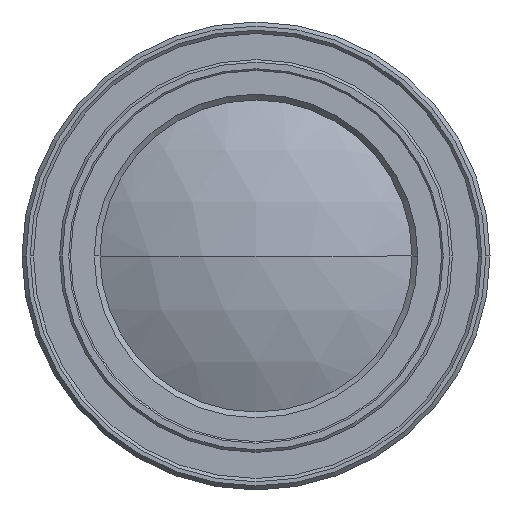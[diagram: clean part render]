
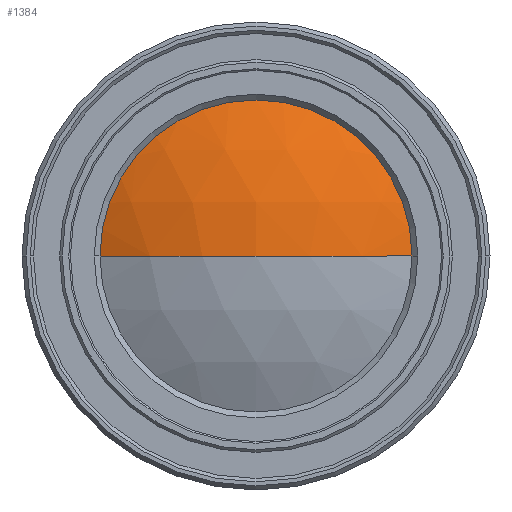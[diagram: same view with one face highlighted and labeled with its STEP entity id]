
A CAD part, left-side view. The second image highlights one B-rep face of the part: STEP entity #1384.
In plain terms, the highlighted spherical face has radius 41.27 mm.
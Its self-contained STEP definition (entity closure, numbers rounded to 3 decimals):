
#184 = VERTEX_POINT ( 'NONE', #1222 ) ;
#209 = EDGE_LOOP ( 'NONE', ( #1429, #1459, #1456 ) ) ;
#404 = CARTESIAN_POINT ( 'NONE',  ( -70.338, 0., 0. ) ) ;
#405 = DIRECTION ( 'NONE',  ( 1., 0., 0. ) ) ;
#406 = DIRECTION ( 'NONE',  ( 0., 1., 0. ) ) ;
#713 = DIRECTION ( 'NONE',  ( 0., 0., 1. ) ) ;
#714 = CARTESIAN_POINT ( 'NONE',  ( -33.702, 0., 0. ) ) ;
#717 = DIRECTION ( 'NONE',  ( 0., 1., 0. ) ) ;
#843 = AXIS2_PLACEMENT_3D ( 'NONE', #1158, #1157, #1156 ) ;
#848 = AXIS2_PLACEMENT_3D ( 'NONE', #2804, #2803, #2802 ) ;
#877 = AXIS2_PLACEMENT_3D ( 'NONE', #714, #713, #717 ) ;
#921 = AXIS2_PLACEMENT_3D ( 'NONE', #404, #405, #406 ) ;
#1096 = VERTEX_POINT ( 'NONE', #2788 ) ;
#1141 = VERTEX_POINT ( 'NONE', #1159 ) ;
#1156 = DIRECTION ( 'NONE',  ( 0., -1., 0. ) ) ;
#1157 = DIRECTION ( 'NONE',  ( 0., 0., 1. ) ) ;
#1158 = CARTESIAN_POINT ( 'NONE',  ( -33.702, 0., 0. ) ) ;
#1159 = CARTESIAN_POINT ( 'NONE',  ( -70.338, 19., 0. ) ) ;
#1195 = EDGE_CURVE ( 'NONE', #184, #1096, #1706, .T. ) ;
#1197 = EDGE_CURVE ( 'NONE', #184, #1141, #1702, .T. ) ;
#1222 = CARTESIAN_POINT ( 'NONE',  ( -74.972, 0., 0. ) ) ;
#1384 = ADVANCED_FACE ( 'NONE', ( #1773 ), #1771, .T. ) ;
#1429 = ORIENTED_EDGE ( 'NONE', *, *, #1197, .F. ) ;
#1456 = ORIENTED_EDGE ( 'NONE', *, *, #2201, .F. ) ;
#1459 = ORIENTED_EDGE ( 'NONE', *, *, #1195, .T. ) ;
#1702 = CIRCLE ( 'NONE', #848, 41.27 ) ;
#1706 = CIRCLE ( 'NONE', #843, 41.27 ) ;
#1771 = SPHERICAL_SURFACE ( 'NONE', #877, 41.27 ) ;
#1773 = FACE_OUTER_BOUND ( 'NONE', #209, .T. ) ;
#1883 = CIRCLE ( 'NONE', #921, 19. ) ;
#2201 = EDGE_CURVE ( 'NONE', #1141, #1096, #1883, .T. ) ;
#2788 = CARTESIAN_POINT ( 'NONE',  ( -70.338, -19., 0. ) ) ;
#2802 = DIRECTION ( 'NONE',  ( -1., 0., 0. ) ) ;
#2803 = DIRECTION ( 'NONE',  ( 0., 0., -1. ) ) ;
#2804 = CARTESIAN_POINT ( 'NONE',  ( -33.702, 0., 0. ) ) ;
